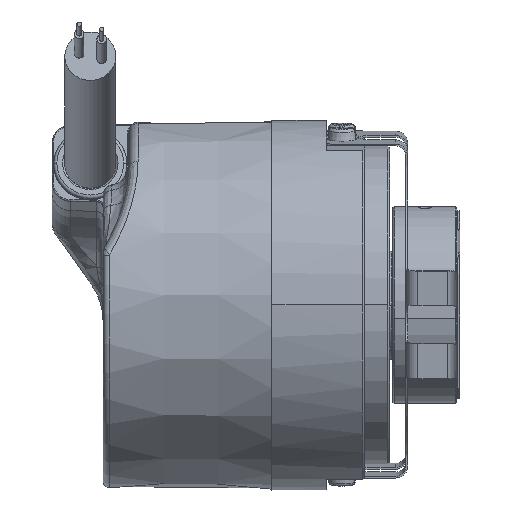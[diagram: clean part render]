
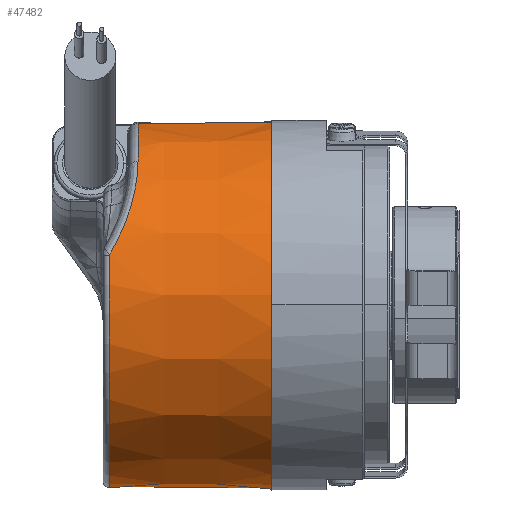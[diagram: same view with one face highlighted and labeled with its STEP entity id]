
A CAD part, top view. The second image highlights one B-rep face of the part: STEP entity #47482.
In plain terms, the highlighted conical face has half-angle 0.5 degrees and reference radius 29 mm.
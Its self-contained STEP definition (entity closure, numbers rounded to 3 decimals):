
#6075 = CARTESIAN_POINT ( 'NONE',  ( -18.009, 7.811, 27.593 ) ) ;
#6084 = CARTESIAN_POINT ( 'NONE',  ( -13.513, 22.568, 17.757 ) ) ;
#6086 = CARTESIAN_POINT ( 'NONE',  ( -13.513, 28.501, 3.512 ) ) ;
#6101 = CARTESIAN_POINT ( 'NONE',  ( -18.009, -28.462, -3.507 ) ) ;
#9621 = CARTESIAN_POINT ( 'NONE',  ( 19., 0., 0. ) ) ;
#9622 = DIRECTION ( 'NONE',  ( 1., 0., 0. ) ) ;
#9623 = DIRECTION ( 'NONE',  ( 0., -0.992, -0.122 ) ) ;
#14621 = CARTESIAN_POINT ( 'NONE',  ( -13.513, 0., 0. ) ) ;
#14622 = DIRECTION ( 'NONE',  ( 1., 0., 0. ) ) ;
#14623 = DIRECTION ( 'NONE',  ( 0., -0.992, -0.122 ) ) ;
#14636 = CARTESIAN_POINT ( 'NONE',  ( -18.009, 0., 0. ) ) ;
#14637 = DIRECTION ( 'NONE',  ( 1., 0., 0. ) ) ;
#14638 = DIRECTION ( 'NONE',  ( 0., 0.992, 0.122 ) ) ;
#16485 = VERTEX_POINT ( 'NONE', #40122 ) ;
#34137 = CARTESIAN_POINT ( 'NONE',  ( 7.5, 28.683, 3.534 ) ) ;
#36453 = B_SPLINE_CURVE_WITH_KNOTS ( 'NONE', 3,
 ( #56157, #56158, #56159, #56160, #56161, #56162, #56163, #56164, #56165, #56166, #56167, #56168, #56169, #56170, #56171, #56172 ),
 .UNSPECIFIED., .F., .F.,
 ( 4, 2, 2, 2, 2, 2, 2, 4 ),
 ( 0., 0.005, 0.006, 0.007, 0.009, 0.014, 0.016, 0.019 ),
 .UNSPECIFIED. ) ;
#37665 = AXIS2_PLACEMENT_3D ( 'NONE', #14621, #14622, #14623 ) ;
#37671 = AXIS2_PLACEMENT_3D ( 'NONE', #14636, #14637, #14638 ) ;
#39521 = EDGE_LOOP ( 'NONE', ( #40907, #40908, #40909, #40911, #40912, #40910 ) ) ;
#40122 = CARTESIAN_POINT ( 'NONE',  ( 7.5, -28.683, -3.534 ) ) ;
#40907 = ORIENTED_EDGE ( 'NONE', *, *, #52841, .F. ) ;
#40908 = ORIENTED_EDGE ( 'NONE', *, *, #53294, .T. ) ;
#40909 = ORIENTED_EDGE ( 'NONE', *, *, #52870, .T. ) ;
#40910 = ORIENTED_EDGE ( 'NONE', *, *, #52871, .F. ) ;
#40911 = ORIENTED_EDGE ( 'NONE', *, *, #53299, .T. ) ;
#40912 = ORIENTED_EDGE ( 'NONE', *, *, #52844, .T. ) ;
#41256 = VERTEX_POINT ( 'NONE', #6075 ) ;
#41274 = VERTEX_POINT ( 'NONE', #6084 ) ;
#41278 = VERTEX_POINT ( 'NONE', #6086 ) ;
#41308 = VERTEX_POINT ( 'NONE', #6101 ) ;
#47482 = ADVANCED_FACE ( 'NONE', ( #48975 ), #50888, .T. ) ;
#47694 = CIRCLE ( 'NONE', #59432, 28.9 ) ;
#47869 = CIRCLE ( 'NONE', #37665, 28.716 ) ;
#47874 = CIRCLE ( 'NONE', #37671, 28.677 ) ;
#48974 = AXIS2_PLACEMENT_3D ( 'NONE', #9621, #9622, #9623 ) ;
#48975 = FACE_OUTER_BOUND ( 'NONE', #39521, .T. ) ;
#50888 = CONICAL_SURFACE ( 'NONE', #48974, 29., 0.009 ) ;
#52841 = EDGE_CURVE ( 'NONE', #41278, #53411, #56042, .T. ) ;
#52844 = EDGE_CURVE ( 'NONE', #41308, #16485, #56051, .T. ) ;
#52870 = EDGE_CURVE ( 'NONE', #41274, #41256, #36453, .T. ) ;
#52871 = EDGE_CURVE ( 'NONE', #53411, #16485, #47694, .T. ) ;
#53294 = EDGE_CURVE ( 'NONE', #41278, #41274, #47869, .T. ) ;
#53299 = EDGE_CURVE ( 'NONE', #41256, #41308, #47874, .T. ) ;
#53411 = VERTEX_POINT ( 'NONE', #34137 ) ;
#56042 = LINE ( 'NONE', #56043, #59417 ) ;
#56043 = CARTESIAN_POINT ( 'NONE',  ( 19., 28.782, 3.546 ) ) ;
#56044 = DIRECTION ( 'NONE',  ( 1., 0.009, 0.001 ) ) ;
#56051 = LINE ( 'NONE', #56052, #59421 ) ;
#56052 = CARTESIAN_POINT ( 'NONE',  ( 19., -28.782, -3.546 ) ) ;
#56053 = DIRECTION ( 'NONE',  ( 1., -0.009, -0.001 ) ) ;
#56157 = CARTESIAN_POINT ( 'NONE',  ( -13.513, 22.568, 17.757 ) ) ;
#56158 = CARTESIAN_POINT ( 'NONE',  ( -13.513, 21.592, 18.997 ) ) ;
#56159 = CARTESIAN_POINT ( 'NONE',  ( -13.587, 20.526, 20.142 ) ) ;
#56160 = CARTESIAN_POINT ( 'NONE',  ( -13.798, 19.086, 21.456 ) ) ;
#56161 = CARTESIAN_POINT ( 'NONE',  ( -13.846, 18.792, 21.713 ) ) ;
#56162 = CARTESIAN_POINT ( 'NONE',  ( -13.955, 18.195, 22.215 ) ) ;
#56163 = CARTESIAN_POINT ( 'NONE',  ( -14.016, 17.89, 22.46 ) ) ;
#56164 = CARTESIAN_POINT ( 'NONE',  ( -14.216, 16.971, 23.17 ) ) ;
#56165 = CARTESIAN_POINT ( 'NONE',  ( -14.374, 16.348, 23.612 ) ) ;
#56166 = CARTESIAN_POINT ( 'NONE',  ( -14.923, 14.449, 24.848 ) ) ;
#56167 = CARTESIAN_POINT ( 'NONE',  ( -15.389, 13.145, 25.554 ) ) ;
#56168 = CARTESIAN_POINT ( 'NONE',  ( -16.255, 11.146, 26.449 ) ) ;
#56169 = CARTESIAN_POINT ( 'NONE',  ( -16.572, 10.473, 26.719 ) ) ;
#56170 = CARTESIAN_POINT ( 'NONE',  ( -17.253, 9.137, 27.199 ) ) ;
#56171 = CARTESIAN_POINT ( 'NONE',  ( -17.619, 8.472, 27.409 ) ) ;
#56172 = CARTESIAN_POINT ( 'NONE',  ( -18.009, 7.811, 27.593 ) ) ;
#56173 = CARTESIAN_POINT ( 'NONE',  ( 7.5, 0., 0. ) ) ;
#56174 = DIRECTION ( 'NONE',  ( 1., 0., 0. ) ) ;
#56175 = DIRECTION ( 'NONE',  ( 0., -0.992, -0.122 ) ) ;
#59417 = VECTOR ( 'NONE', #56044, 1000. ) ;
#59421 = VECTOR ( 'NONE', #56053, 1000. ) ;
#59432 = AXIS2_PLACEMENT_3D ( 'NONE', #56173, #56174, #56175 ) ;
